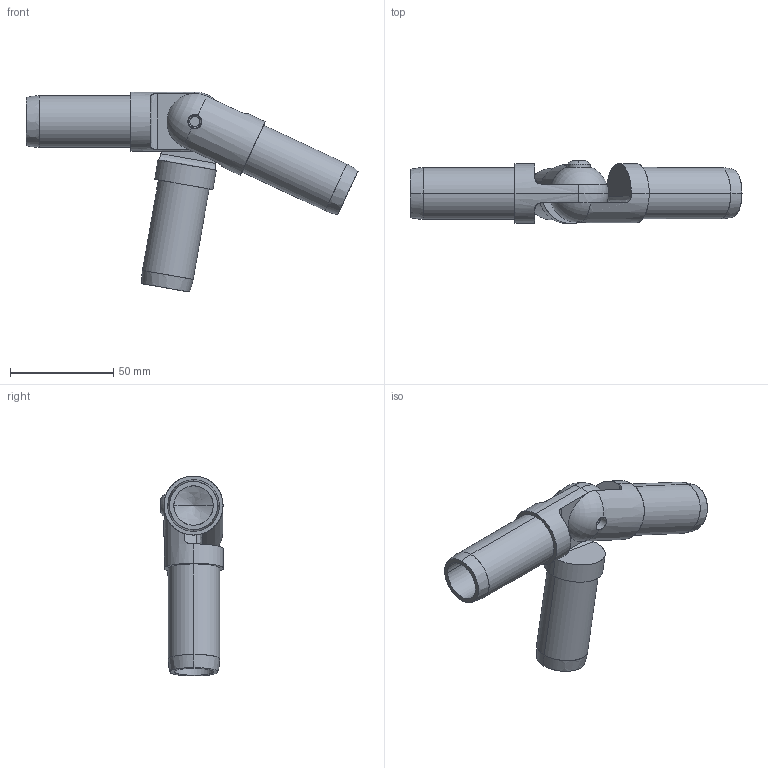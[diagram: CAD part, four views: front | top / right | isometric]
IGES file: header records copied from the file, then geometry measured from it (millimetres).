
Start section: SolidWorks IGES file using analytic representation for surfaces
Global section: file name: \\SERVER3\Design\_New Design Drive Folder List\_Design Vault\AAI\Modular Round Tube Connectors\Solidworks Models\STP Files\12202013\1.000 Inch Modular Connectors\Assemblies\1 Inch In-plane Adjustable Angle 3-Tube Joint Kit.IGS; native system: SolidWorks 2013; preprocessor: SolidWorks 2013; author: tbraun; date: 140110.114037; units: inch
Bounding box: 160.64 x 30.45 x 96.75 mm (x, y, z)
Surface area: 34974.3 mm2 (no closed solid volume)
Topology: 0 solids, 0 shells, 225 faces, 3321 edges, 3314 vertices
Faces by surface type: revolution 178, bspline 47
